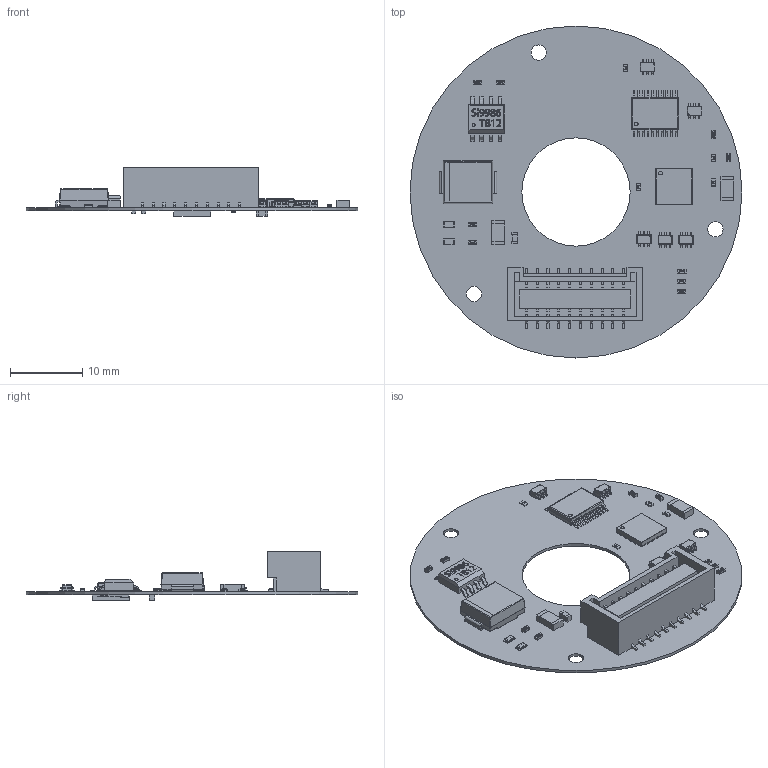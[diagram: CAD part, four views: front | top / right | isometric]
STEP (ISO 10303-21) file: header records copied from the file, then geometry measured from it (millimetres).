
FILE_DESCRIPTION(('Open CASCADE Model'),'2;1');
FILE_NAME('Open CASCADE Shape Model','2023-06-05T22:40:59',('Author'),( 'Open CASCADE'),'Open CASCADE STEP processor 6.8','Open CASCADE 6.8' ,'Unknown');
FILE_SCHEMA(('AUTOMOTIVE_DESIGN { 1 0 10303 214 1 1 1 1 }'));
Length unit declared in the file: millimetre
Products named in the file (76): PCB; Board; Open CASCADE STEP translator 6.8 2.1.1; U3; User_Library-My-DFN-16-5x5-0_5; Part_18; Part_19; Part_17; 7; 8; Body; 14; 13; 2; 1; 9; 11; 3; 12; 4; 6; 10; 5; TP; U4; Silicon_Labs_-_32-QFN_5x5; U2; SOIC-8; U1; TSSOP-20-TI-PW; R11; RES_1005-0402; R10; R9; R8; R7; R6; R5; R4; R3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
Assembly tree (102 placements, depth 4):
  PCB
    Board
      Open CASCADE STEP translator 6.8 2.1.1
    U3
      User_Library-My-DFN-16-5x5-0_5
        Part_18
        Part_19
        Part_17
        7
        8
        Body
        14
        13
        2
        1
        9
        11
        3
        12
        4
        6
        10
        5
        TP
    U4
      Silicon_Labs_-_32-QFN_5x5
    U2
      SOIC-8
    U1
      TSSOP-20-TI-PW
    R11
      RES_1005-0402
    R10
      RES_1005-0402
    R9
      RES_1005-0402
    R8
      RES_1005-0402
    R7
      RES_1005-0402
    R6
      RES_1005-0402
    R5
      RES_1005-0402
    R4
      RES_1005-0402
    R3
      RES_1005-0402
    R2
      RES_1005-0402
    R1
      RES_1005-0402
    D8
      User_Library-SC70-6
    D7
      User_Library-SC70-6
    D6
      User_Library-SC70-6
    D5
      SMC
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Bounding box: 46 x 46 x 6.76 mm (x, y, z)
Volume: 1332.5 mm3; surface area: 4738 mm2
Topology: 94 solids, 94 shells, 3819 faces, 9741 edges, 6137 vertices
Faces by surface type: plane 2470, cylinder 678, bspline 482, sphere 189
Full cylindrical faces by diameter (mm): 0.5 x1, 2.112 x3, 15 x1, 46 x1
Entity records: 74326 total; most frequent: CARTESIAN_POINT 17897, ORIENTED_EDGE 9696, DIRECTION 8921, EDGE_CURVE 4848, LINE 3747, VECTOR 3747, VERTEX_POINT 3107, AXIS2_PLACEMENT_3D 2587
